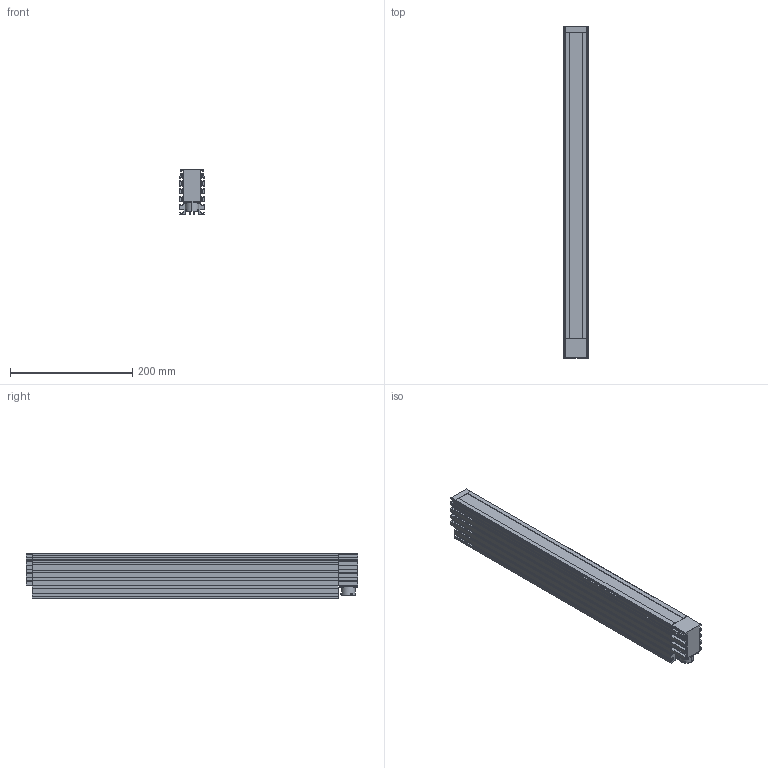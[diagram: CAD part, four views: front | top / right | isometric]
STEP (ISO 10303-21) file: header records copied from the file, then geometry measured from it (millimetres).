
FILE_DESCRIPTION (( 'STEP AP203' ), '1' );
FILE_NAME ('VLN (L_D_X)-500W _ Drawing _ L1258A (L1273A_L1289A_L1304A)-A00101.STEP', '2024-06-24T05:30:47', ( '' ), ( '' ), 'SwSTEP 2.0', 'SolidWorks 2020', '' );
FILE_SCHEMA (( 'CONFIG_CONTROL_DESIGN' ));
Length unit declared in the file: millimetre
Products named in the file (8): VLN (L_D_X)-500W _ Drawing _ L1258A (L1273A_L1289A_L1304A)-A00101; Nanaboshi NAW-202-RF 板裝連接器 + 防水墊; TMVLN0100D301A _ VLN 0100 主體 _ STEP  用; M2 X 35 柱頭 內六角 螺絲; M3 X 6 扁頭 螺絲; VLN-100W _ TMVLN0100D304A _ VLN ｳsｱｵｾｹｺﾝｰｼｻ\ _ L1254A-M00401_ STEP･ﾎ; M2 X 12 柱頭 內六角 螺絲; VLN-100W _ TMVLN0100D303A _ VLN 側蓋 _ L1254A-M00301 _ STEP 用
Assembly tree (24 placements, depth 2):
  VLN (L_D_X)-500W _ Drawing _ L1258A (L1273A_L1289A_L1304A)-A00101
    TMVLN0100D301A _ VLN 0100 主體 _ STEP  用
    VLN-100W _ TMVLN0100D303A _ VLN 側蓋 _ L1254A-M00301 _ STEP 用
    VLN-100W _ TMVLN0100D304A _ VLN ｳsｱｵｾｹｺﾝｰｼｻ\ _ L1254A-M00401_ STEP･ﾎ
    M2 X 12 柱頭 內六角 螺絲  x8
    M2 X 35 柱頭 內六角 螺絲  x8
    M3 X 6 扁頭 螺絲  x4
    Nanaboshi NAW-202-RF 板裝連接器 + 防水墊
Bounding box: 40 x 542 x 75 mm (x, y, z)
Volume: 1214091.5 mm3; surface area: 299902.6 mm2
Topology: 24 solids, 24 shells, 1158 faces, 2741 edges, 1722 vertices
Faces by surface type: plane 594, cylinder 372, torus 119, cone 48, bspline 21, sphere 4
Entity records: 26874 total; most frequent: CARTESIAN_POINT 6179, ORIENTED_EDGE 4050, DIRECTION 3981, EDGE_CURVE 2025, VECTOR 1375, LINE 1375, AXIS2_PLACEMENT_3D 1303, VERTEX_POINT 1280
